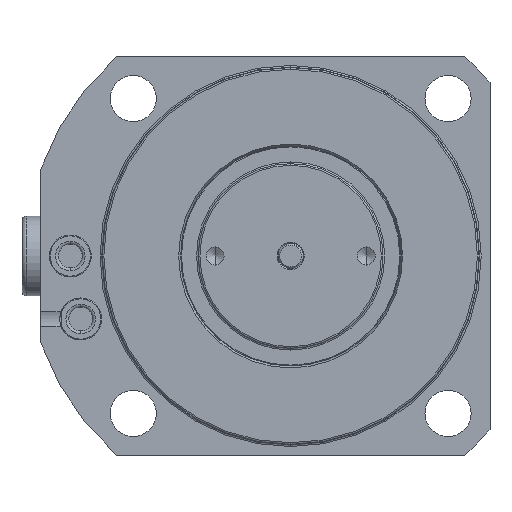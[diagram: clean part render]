
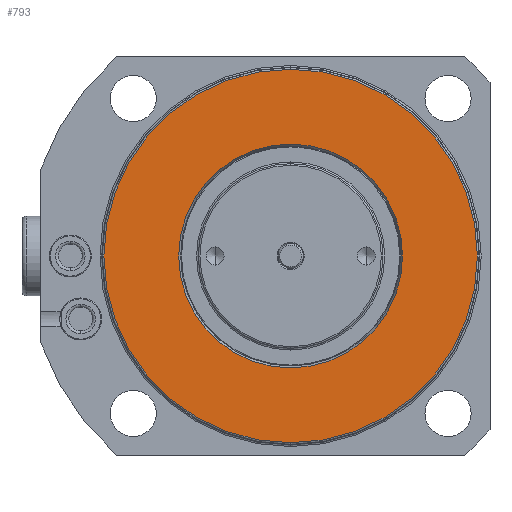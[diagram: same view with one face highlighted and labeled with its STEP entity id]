
A CAD part, front view. The second image highlights one B-rep face of the part: STEP entity #793.
In plain terms, the highlighted planar face has unit normal (0, -1, 0).
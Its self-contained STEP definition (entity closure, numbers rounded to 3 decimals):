
#337=PLANE('',#4541);
#413=FACE_BOUND('',#1376,.T.);
#414=FACE_BOUND('',#1377,.T.);
#793=ADVANCED_FACE('',(#413,#414),#337,.F.);
#1376=EDGE_LOOP('',(#2628,#2629));
#1377=EDGE_LOOP('',(#2630,#2631));
#2628=ORIENTED_EDGE('',*,*,#3588,.F.);
#2629=ORIENTED_EDGE('',*,*,#3635,.F.);
#2630=ORIENTED_EDGE('',*,*,#3508,.T.);
#2631=ORIENTED_EDGE('',*,*,#3662,.T.);
#3072=VERTEX_POINT('',#6989);
#3073=VERTEX_POINT('',#6991);
#3132=VERTEX_POINT('',#7182);
#3133=VERTEX_POINT('',#7183);
#3508=EDGE_CURVE('',#3073,#3072,#3920,.T.);
#3588=EDGE_CURVE('',#3132,#3133,#3970,.T.);
#3635=EDGE_CURVE('',#3133,#3132,#3990,.T.);
#3662=EDGE_CURVE('',#3072,#3073,#4016,.T.);
#3920=CIRCLE('',#4382,26.662);
#3970=CIRCLE('',#4454,44.5);
#3990=CIRCLE('',#4482,44.5);
#4016=CIRCLE('',#4539,26.662);
#4382=AXIS2_PLACEMENT_3D('',#6990,#5392,#5393);
#4454=AXIS2_PLACEMENT_3D('',#7181,#5565,#5566);
#4482=AXIS2_PLACEMENT_3D('',#7316,#5638,#5639);
#4539=AXIS2_PLACEMENT_3D('',#7404,#5752,#5753);
#4541=AXIS2_PLACEMENT_3D('',#7406,#5756,#5757);
#5392=DIRECTION('',(0.,1.,0.));
#5393=DIRECTION('',(0.,0.,1.));
#5565=DIRECTION('',(0.,1.,0.));
#5566=DIRECTION('',(0.,0.,1.));
#5638=DIRECTION('',(0.,1.,0.));
#5639=DIRECTION('',(0.,0.,1.));
#5752=DIRECTION('',(0.,1.,0.));
#5753=DIRECTION('',(0.,0.,1.));
#5756=DIRECTION('',(0.,1.,0.));
#5757=DIRECTION('',(0.,0.,-1.));
#6989=CARTESIAN_POINT('',(0.,11.1,26.662));
#6990=CARTESIAN_POINT('',(0.,11.1,0.));
#6991=CARTESIAN_POINT('',(0.,11.1,-26.662));
#7181=CARTESIAN_POINT('',(0.,11.1,0.));
#7182=CARTESIAN_POINT('',(0.,11.1,44.5));
#7183=CARTESIAN_POINT('',(0.,11.1,-44.5));
#7316=CARTESIAN_POINT('',(0.,11.1,0.));
#7404=CARTESIAN_POINT('',(0.,11.1,0.));
#7406=CARTESIAN_POINT('',(26.662,11.1,0.));
